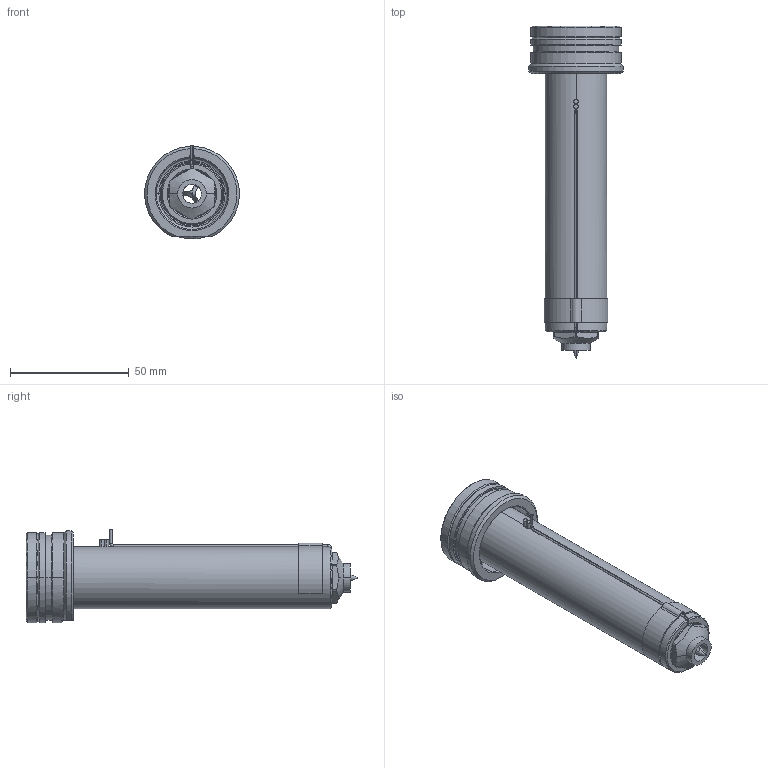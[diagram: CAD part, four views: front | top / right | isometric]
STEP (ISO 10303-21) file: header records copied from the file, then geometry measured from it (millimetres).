
FILE_DESCRIPTION((''),'2;1');
FILE_NAME('EO08_PG-BL_WR_120_SW','2024-02-19T11:07:04',('sundharh'),(''),'CREO PARAMETRIC BY PTC INC, 2023154','CREO PARAMETRIC BY PTC INC, 2023154','');
FILE_SCHEMA(('CONFIG_CONTROL_DESIGN'));
Length unit declared in the file: millimetre
Products named in the file (1): EO08_PG-BL_WR_120_SW
Bounding box: 39.88 x 140 x 39.52 mm (x, y, z)
Volume: 73486.2 mm3; surface area: 21734 mm2
Topology: 1 solids, 1 shells, 203 faces, 542 edges, 336 vertices
Faces by surface type: cylinder 79, plane 58, cone 41, torus 19, bspline 4, sphere 2
Entity records: 7910 total; most frequent: CARTESIAN_POINT 2727, DIRECTION 1140, ORIENTED_EDGE 1076, EDGE_CURVE 538, AXIS2_PLACEMENT_3D 476, VERTEX_POINT 336, CIRCLE 277, EDGE_LOOP 220
